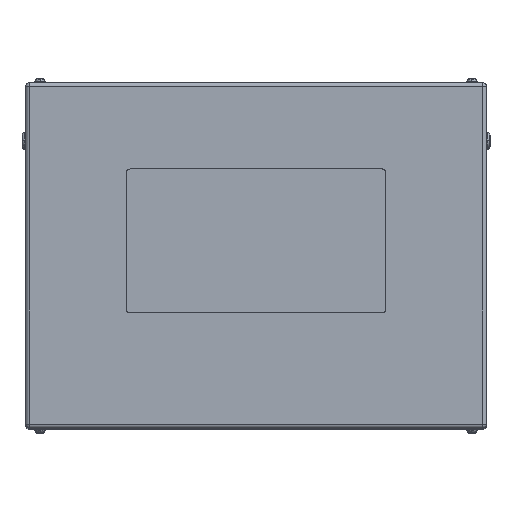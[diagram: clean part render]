
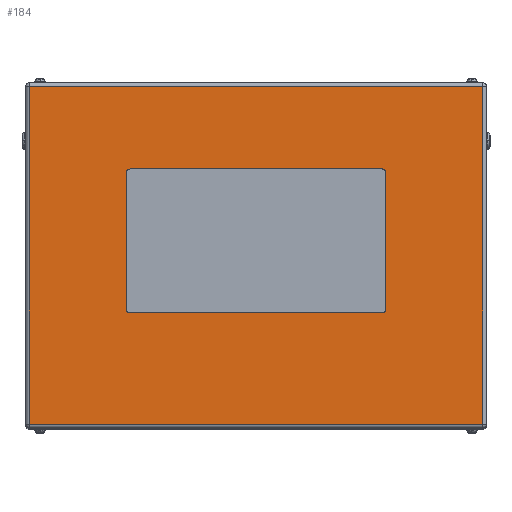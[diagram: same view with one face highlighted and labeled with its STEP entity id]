
A CAD part, top view. The second image highlights one B-rep face of the part: STEP entity #184.
In plain terms, the highlighted planar face has unit normal (0, 0, 1).
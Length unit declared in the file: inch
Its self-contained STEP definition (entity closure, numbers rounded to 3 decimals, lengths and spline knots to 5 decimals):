
#184 = ADVANCED_FACE ( 'NONE', ( #13911, #7492 ), #13809, .F. ) ;
#400 = VERTEX_POINT ( 'NONE', #18240 ) ;
#440 = EDGE_CURVE ( 'NONE', #17924, #15623, #17886, .T. ) ;
#783 = CARTESIAN_POINT ( 'NONE',  ( 15.734, 11.734, 26. ) ) ;
#842 = LINE ( 'NONE', #10839, #11832 ) ;
#877 = ORIENTED_EDGE ( 'NONE', *, *, #18353, .F. ) ;
#930 = VERTEX_POINT ( 'NONE', #1850 ) ;
#940 = EDGE_CURVE ( 'NONE', #17177, #13419, #12367, .T. ) ;
#1152 = VERTEX_POINT ( 'NONE', #18971 ) ;
#1348 = LINE ( 'NONE', #17303, #11010 ) ;
#1381 = CARTESIAN_POINT ( 'NONE',  ( -9., 5.75, 26. ) ) ;
#1850 = CARTESIAN_POINT ( 'NONE',  ( -15.734, 11.734, 26. ) ) ;
#1898 = EDGE_CURVE ( 'NONE', #1152, #17924, #11780, .T. ) ;
#2054 = LINE ( 'NONE', #10475, #15250 ) ;
#2295 = CIRCLE ( 'NONE', #4651, 0.25 ) ;
#2625 = VECTOR ( 'NONE', #5087, 39.37008 ) ;
#3375 = ORIENTED_EDGE ( 'NONE', *, *, #6945, .F. ) ;
#3732 = CARTESIAN_POINT ( 'NONE',  ( -8.75, -4., 26. ) ) ;
#3804 = EDGE_CURVE ( 'NONE', #15623, #930, #842, .T. ) ;
#3883 = VECTOR ( 'NONE', #9181, 39.37008 ) ;
#3937 = AXIS2_PLACEMENT_3D ( 'NONE', #19491, #5114, #6804 ) ;
#4501 = DIRECTION ( 'NONE',  ( 0., -1., 0. ) ) ;
#4651 = AXIS2_PLACEMENT_3D ( 'NONE', #9272, #13918, #9385 ) ;
#4771 = CARTESIAN_POINT ( 'NONE',  ( 9., -3.75, 26. ) ) ;
#5087 = DIRECTION ( 'NONE',  ( 0., 1., 0. ) ) ;
#5114 = DIRECTION ( 'NONE',  ( 0., 0., 1. ) ) ;
#5198 = ORIENTED_EDGE ( 'NONE', *, *, #5418, .F. ) ;
#5418 = EDGE_CURVE ( 'NONE', #7827, #20655, #7880, .T. ) ;
#5432 = CARTESIAN_POINT ( 'NONE',  ( -8.75, 5.75, 26. ) ) ;
#5466 = VECTOR ( 'NONE', #4501, 39.37008 ) ;
#6150 = ORIENTED_EDGE ( 'NONE', *, *, #8830, .F. ) ;
#6573 = LINE ( 'NONE', #9734, #2625 ) ;
#6676 = CARTESIAN_POINT ( 'NONE',  ( 15.734, 12., 26. ) ) ;
#6696 = CARTESIAN_POINT ( 'NONE',  ( -9., 5.75, 26. ) ) ;
#6804 = DIRECTION ( 'NONE',  ( 1., 0., 0. ) ) ;
#6945 = EDGE_CURVE ( 'NONE', #14068, #17177, #2054, .T. ) ;
#7452 = DIRECTION ( 'NONE',  ( 1., 0., 0. ) ) ;
#7492 = FACE_OUTER_BOUND ( 'NONE', #17009, .T. ) ;
#7682 = CIRCLE ( 'NONE', #16345, 0.25 ) ;
#7827 = VERTEX_POINT ( 'NONE', #13420 ) ;
#7880 = CIRCLE ( 'NONE', #13558, 0.25 ) ;
#8241 = EDGE_CURVE ( 'NONE', #20655, #400, #9394, .T. ) ;
#8291 = ORIENTED_EDGE ( 'NONE', *, *, #3804, .T. ) ;
#8814 = DIRECTION ( 'NONE',  ( 1., 0., 0. ) ) ;
#8830 = EDGE_CURVE ( 'NONE', #14224, #15752, #7682, .T. ) ;
#8987 = EDGE_CURVE ( 'NONE', #15752, #7827, #1348, .T. ) ;
#9181 = DIRECTION ( 'NONE',  ( 0., -1., 0. ) ) ;
#9272 = CARTESIAN_POINT ( 'NONE',  ( -8.75, -3.75, 26. ) ) ;
#9282 = AXIS2_PLACEMENT_3D ( 'NONE', #14017, #12204, #18803 ) ;
#9341 = EDGE_CURVE ( 'NONE', #13419, #14224, #6573, .T. ) ;
#9377 = CARTESIAN_POINT ( 'NONE',  ( -15.734, 12., 26. ) ) ;
#9385 = DIRECTION ( 'NONE',  ( 1., 0., 0. ) ) ;
#9394 = LINE ( 'NONE', #1381, #3883 ) ;
#9734 = CARTESIAN_POINT ( 'NONE',  ( 9., 5.75, 26. ) ) ;
#9926 = CARTESIAN_POINT ( 'NONE',  ( 9., 5.75, 26. ) ) ;
#9934 = CARTESIAN_POINT ( 'NONE',  ( 15.734, -11.734, 26. ) ) ;
#10101 = CARTESIAN_POINT ( 'NONE',  ( 15.734, -11.734, 26. ) ) ;
#10475 = CARTESIAN_POINT ( 'NONE',  ( -8.75, -4., 26. ) ) ;
#10706 = DIRECTION ( 'NONE',  ( 0., 0., 1. ) ) ;
#10839 = CARTESIAN_POINT ( 'NONE',  ( 16., 11.734, 26. ) ) ;
#11010 = VECTOR ( 'NONE', #15849, 39.37008 ) ;
#11780 = LINE ( 'NONE', #10101, #20019 ) ;
#11832 = VECTOR ( 'NONE', #15678, 39.37008 ) ;
#12204 = DIRECTION ( 'NONE',  ( 0., 0., -1. ) ) ;
#12367 = CIRCLE ( 'NONE', #3937, 0.25 ) ;
#13073 = ORIENTED_EDGE ( 'NONE', *, *, #1898, .T. ) ;
#13092 = EDGE_LOOP ( 'NONE', ( #3375, #877, #14317, #5198, #18157, #6150, #19422, #17873 ) ) ;
#13110 = DIRECTION ( 'NONE',  ( 0., 1., 0. ) ) ;
#13419 = VERTEX_POINT ( 'NONE', #4771 ) ;
#13420 = CARTESIAN_POINT ( 'NONE',  ( -8.75, 6., 26. ) ) ;
#13460 = DIRECTION ( 'NONE',  ( -1., 0., 0. ) ) ;
#13558 = AXIS2_PLACEMENT_3D ( 'NONE', #5432, #18431, #8814 ) ;
#13809 = PLANE ( 'NONE',  #9282 ) ;
#13911 = FACE_BOUND ( 'NONE', #13092, .T. ) ;
#13918 = DIRECTION ( 'NONE',  ( 0., 0., 1. ) ) ;
#13952 = EDGE_CURVE ( 'NONE', #930, #1152, #18897, .T. ) ;
#13992 = ORIENTED_EDGE ( 'NONE', *, *, #440, .T. ) ;
#14017 = CARTESIAN_POINT ( 'NONE',  ( 16., 12., 26. ) ) ;
#14068 = VERTEX_POINT ( 'NONE', #3732 ) ;
#14224 = VERTEX_POINT ( 'NONE', #9926 ) ;
#14317 = ORIENTED_EDGE ( 'NONE', *, *, #8241, .F. ) ;
#14936 = DIRECTION ( 'NONE',  ( 1., 0., 0. ) ) ;
#15250 = VECTOR ( 'NONE', #7452, 39.37008 ) ;
#15623 = VERTEX_POINT ( 'NONE', #783 ) ;
#15678 = DIRECTION ( 'NONE',  ( -1., 0., 0. ) ) ;
#15752 = VERTEX_POINT ( 'NONE', #17367 ) ;
#15849 = DIRECTION ( 'NONE',  ( -1., 0., 0. ) ) ;
#16011 = CARTESIAN_POINT ( 'NONE',  ( 8.75, -4., 26. ) ) ;
#16345 = AXIS2_PLACEMENT_3D ( 'NONE', #19902, #10706, #13460 ) ;
#16980 = VECTOR ( 'NONE', #13110, 39.37008 ) ;
#17009 = EDGE_LOOP ( 'NONE', ( #20764, #13073, #13992, #8291 ) ) ;
#17177 = VERTEX_POINT ( 'NONE', #16011 ) ;
#17303 = CARTESIAN_POINT ( 'NONE',  ( -8.75, 6., 26. ) ) ;
#17367 = CARTESIAN_POINT ( 'NONE',  ( 8.75, 6., 26. ) ) ;
#17873 = ORIENTED_EDGE ( 'NONE', *, *, #940, .F. ) ;
#17886 = LINE ( 'NONE', #6676, #16980 ) ;
#17924 = VERTEX_POINT ( 'NONE', #9934 ) ;
#18157 = ORIENTED_EDGE ( 'NONE', *, *, #8987, .F. ) ;
#18240 = CARTESIAN_POINT ( 'NONE',  ( -9., -3.75, 26. ) ) ;
#18353 = EDGE_CURVE ( 'NONE', #400, #14068, #2295, .T. ) ;
#18431 = DIRECTION ( 'NONE',  ( 0., 0., 1. ) ) ;
#18803 = DIRECTION ( 'NONE',  ( -1., 0., 0. ) ) ;
#18897 = LINE ( 'NONE', #9377, #5466 ) ;
#18971 = CARTESIAN_POINT ( 'NONE',  ( -15.734, -11.734, 26. ) ) ;
#19422 = ORIENTED_EDGE ( 'NONE', *, *, #9341, .F. ) ;
#19491 = CARTESIAN_POINT ( 'NONE',  ( 8.75, -3.75, 26. ) ) ;
#19902 = CARTESIAN_POINT ( 'NONE',  ( 8.75, 5.75, 26. ) ) ;
#20019 = VECTOR ( 'NONE', #14936, 39.37008 ) ;
#20655 = VERTEX_POINT ( 'NONE', #6696 ) ;
#20764 = ORIENTED_EDGE ( 'NONE', *, *, #13952, .T. ) ;
